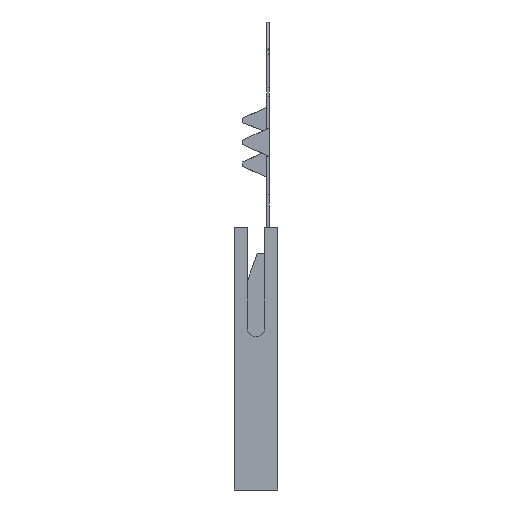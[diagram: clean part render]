
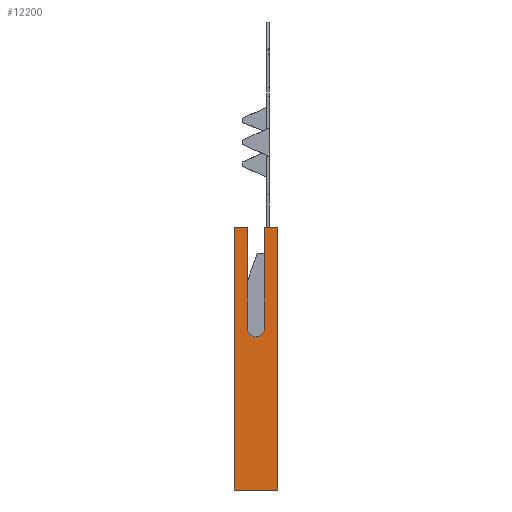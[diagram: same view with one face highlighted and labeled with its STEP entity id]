
A CAD part, left-side view. The second image highlights one B-rep face of the part: STEP entity #12200.
In plain terms, the highlighted planar face has unit normal (-1, 0, 0).
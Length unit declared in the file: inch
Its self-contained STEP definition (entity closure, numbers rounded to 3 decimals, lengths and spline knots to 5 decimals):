
#81=DIRECTION('',(0.,1.,0.));
#82=VECTOR('',#81,0.0295);
#83=CARTESIAN_POINT('',(-0.3495,0.0695,0.));
#84=LINE('',#83,#82);
#209=DIRECTION('',(0.,1.,0.));
#210=VECTOR('',#209,0.0295);
#211=CARTESIAN_POINT('',(-0.3495,0.,0.));
#212=LINE('',#211,#210);
#2242=DIRECTION('',(0.,0.,-1.));
#2243=VECTOR('',#2242,0.23);
#2244=CARTESIAN_POINT('',(-0.3495,0.0295,0.));
#2245=LINE('',#2244,#2243);
#2246=DIRECTION('',(0.,0.,-1.));
#2247=VECTOR('',#2246,0.6);
#2248=CARTESIAN_POINT('',(-0.3495,0.,0.));
#2249=LINE('',#2248,#2247);
#2250=DIRECTION('',(0.,0.,-1.));
#2251=VECTOR('',#2250,0.23);
#2252=CARTESIAN_POINT('',(-0.3495,0.0695,0.));
#2253=LINE('',#2252,#2251);
#2254=CARTESIAN_POINT('',(-0.3495,0.0495,-0.23));
#2255=DIRECTION('',(1.,0.,0.));
#2256=DIRECTION('',(0.,-1.,0.));
#2257=AXIS2_PLACEMENT_3D('',#2254,#2255,#2256);
#2941=DIRECTION('',(0.,1.,0.));
#2942=VECTOR('',#2941,0.099);
#2943=CARTESIAN_POINT('',(-0.3495,0.,-0.6));
#2944=LINE('',#2943,#2942);
#3813=DIRECTION('',(0.,0.,-1.));
#3814=VECTOR('',#3813,0.6);
#3815=CARTESIAN_POINT('',(-0.3495,0.099,0.));
#3816=LINE('',#3815,#3814);
#7525=CARTESIAN_POINT('',(-0.3495,0.099,0.));
#7527=VERTEX_POINT('',#7525);
#7533=CARTESIAN_POINT('',(-0.3495,0.,-0.6));
#7534=CARTESIAN_POINT('',(-0.3495,0.099,-0.6));
#7535=VERTEX_POINT('',#7533);
#7536=VERTEX_POINT('',#7534);
#7539=CARTESIAN_POINT('',(-0.3495,0.,0.));
#7540=VERTEX_POINT('',#7539);
#7549=CARTESIAN_POINT('',(-0.3495,0.0295,0.));
#7550=CARTESIAN_POINT('',(-0.3495,0.0295,-0.23));
#7551=VERTEX_POINT('',#7549);
#7552=VERTEX_POINT('',#7550);
#7553=CARTESIAN_POINT('',(-0.3495,0.0695,-0.23));
#7554=VERTEX_POINT('',#7553);
#7555=CARTESIAN_POINT('',(-0.3495,0.0695,0.));
#7556=VERTEX_POINT('',#7555);
#12181=CARTESIAN_POINT('',(-0.3495,0.,0.));
#12182=DIRECTION('',(-1.,0.,0.));
#12183=DIRECTION('',(0.,1.,0.));
#12184=AXIS2_PLACEMENT_3D('',#12181,#12182,#12183);
#12185=PLANE('',#12184);
#12187=ORIENTED_EDGE('',*,*,#12186,.F.);
#12188=ORIENTED_EDGE('',*,*,#10030,.F.);
#12190=ORIENTED_EDGE('',*,*,#12189,.T.);
#12192=ORIENTED_EDGE('',*,*,#12191,.T.);
#12194=ORIENTED_EDGE('',*,*,#12193,.F.);
#12195=ORIENTED_EDGE('',*,*,#9958,.F.);
#12196=ORIENTED_EDGE('',*,*,#12078,.T.);
#12197=ORIENTED_EDGE('',*,*,#11935,.F.);
#12198=EDGE_LOOP('',(#12187,#12188,#12190,#12192,#12194,#12195,#12196,#12197));
#12199=FACE_OUTER_BOUND('',#12198,.F.);
#12200=ADVANCED_FACE('',(#12199),#12185,.T.);
#2258=CIRCLE('',#2257,0.02);
#9958=EDGE_CURVE('',#7556,#7527,#84,.T.);
#10030=EDGE_CURVE('',#7540,#7551,#212,.T.);
#11935=EDGE_CURVE('',#7552,#7554,#2258,.T.);
#12078=EDGE_CURVE('',#7556,#7554,#2253,.T.);
#12186=EDGE_CURVE('',#7551,#7552,#2245,.T.);
#12189=EDGE_CURVE('',#7540,#7535,#2249,.T.);
#12191=EDGE_CURVE('',#7535,#7536,#2944,.T.);
#12193=EDGE_CURVE('',#7527,#7536,#3816,.T.);
